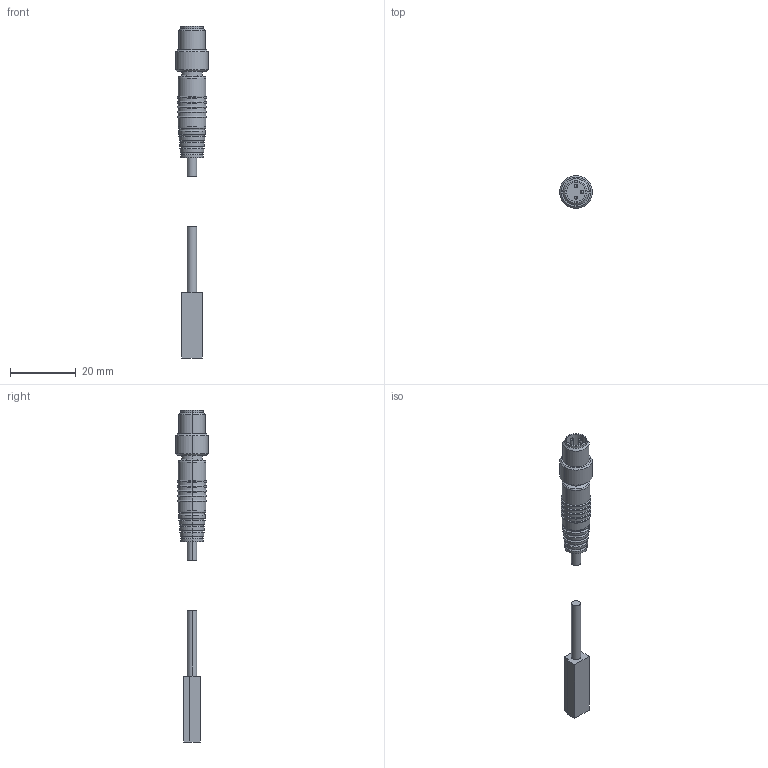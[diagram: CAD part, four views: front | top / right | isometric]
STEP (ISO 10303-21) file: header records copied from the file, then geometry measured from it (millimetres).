
FILE_DESCRIPTION (( 'STEP AP203' ), '1' );
FILE_NAME ('15000028.STEP', '2019-02-15T13:25:46', ( '' ), ( '' ), 'SwSTEP 2.0', 'SolidWorks 2015', '' );
FILE_SCHEMA (( 'CONFIG_CONTROL_DESIGN' ));
Length unit declared in the file: millimetre
Products named in the file (1): 15000028
Bounding box: 10 x 10 x 100.8 mm (x, y, z)
Volume: 2808.7 mm3; surface area: 2178.9 mm2
Topology: 2 solids, 2 shells, 309 faces, 806 edges, 518 vertices
Faces by surface type: cylinder 152, plane 99, bspline 38, cone 20
Entity records: 10544 total; most frequent: CARTESIAN_POINT 2725, DIRECTION 1717, ORIENTED_EDGE 1600, EDGE_CURVE 800, AXIS2_PLACEMENT_3D 660, VERTEX_POINT 518, LINE 397, VECTOR 397
